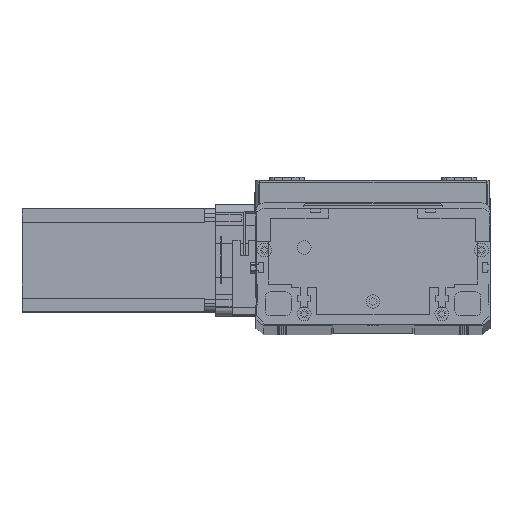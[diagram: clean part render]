
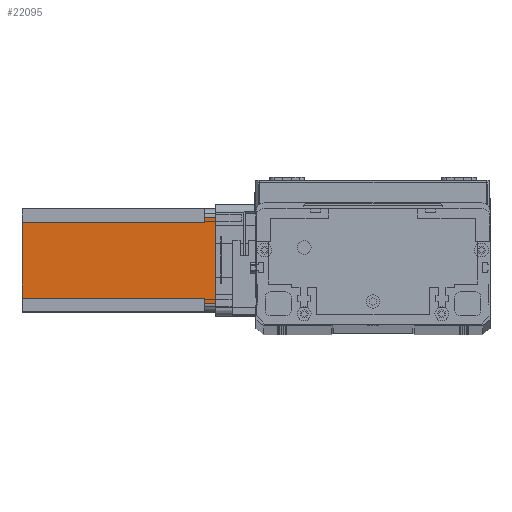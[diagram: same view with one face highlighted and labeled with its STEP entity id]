
A CAD part, top view. The second image highlights one B-rep face of the part: STEP entity #22095.
In plain terms, the highlighted planar face has unit normal (0, 0, 1) as drawn and (0, -1, 0) by its records, which use the part's own axes.
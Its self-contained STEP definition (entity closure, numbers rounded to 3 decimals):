
#575 = CARTESIAN_POINT ( 'NONE',  ( 55., 0., 0. ) ) ;
#847 = VECTOR ( 'NONE', #25071, 1000. ) ;
#1330 = VECTOR ( 'NONE', #6969, 1000. ) ;
#1618 = CARTESIAN_POINT ( 'NONE',  ( 0., 0., -112.5 ) ) ;
#2047 = DIRECTION ( 'NONE',  ( 1., 0., 0. ) ) ;
#2066 = VERTEX_POINT ( 'NONE', #575 ) ;
#2630 = VECTOR ( 'NONE', #13880, 1000. ) ;
#3203 = CARTESIAN_POINT ( 'NONE',  ( 8., 0., -112.5 ) ) ;
#3427 = DIRECTION ( 'NONE',  ( 1., 0., 0. ) ) ;
#3444 = VECTOR ( 'NONE', #20637, 1000. ) ;
#3607 = VECTOR ( 'NONE', #3427, 1000. ) ;
#3659 = CARTESIAN_POINT ( 'NONE',  ( 5., 0., -112.5 ) ) ;
#4548 = VERTEX_POINT ( 'NONE', #11816 ) ;
#4606 = VERTEX_POINT ( 'NONE', #7030 ) ;
#5247 = VERTEX_POINT ( 'NONE', #18920 ) ;
#5456 = LINE ( 'NONE', #6324, #10508 ) ;
#5688 = EDGE_CURVE ( 'NONE', #19277, #4606, #13109, .T. ) ;
#5992 = DIRECTION ( 'NONE',  ( 0., -1., 0. ) ) ;
#6136 = EDGE_CURVE ( 'NONE', #18836, #19277, #24799, .T. ) ;
#6324 = CARTESIAN_POINT ( 'NONE',  ( 0., 0., -112.5 ) ) ;
#6423 = EDGE_LOOP ( 'NONE', ( #13315, #26340, #11170, #22470, #12749, #9012, #23008, #16227 ) ) ;
#6761 = EDGE_CURVE ( 'NONE', #14198, #25589, #9442, .T. ) ;
#6969 = DIRECTION ( 'NONE',  ( 0., 0., 1. ) ) ;
#6997 = EDGE_CURVE ( 'NONE', #25589, #2066, #25386, .T. ) ;
#7030 = CARTESIAN_POINT ( 'NONE',  ( 5., 0., -6.5 ) ) ;
#7485 = DIRECTION ( 'NONE',  ( -1., 0., 0. ) ) ;
#7656 = AXIS2_PLACEMENT_3D ( 'NONE', #1618, #5992, #21005 ) ;
#9012 = ORIENTED_EDGE ( 'NONE', *, *, #6136, .F. ) ;
#9087 = CARTESIAN_POINT ( 'NONE',  ( 8., 0., -112.5 ) ) ;
#9442 = LINE ( 'NONE', #23029, #20149 ) ;
#9982 = CARTESIAN_POINT ( 'NONE',  ( 52., 0., -112.5 ) ) ;
#10508 = VECTOR ( 'NONE', #2047, 1000. ) ;
#10996 = EDGE_CURVE ( 'NONE', #18836, #4548, #5456, .T. ) ;
#11005 = LINE ( 'NONE', #3659, #847 ) ;
#11124 = CARTESIAN_POINT ( 'NONE',  ( 8., 0., -6.5 ) ) ;
#11170 = ORIENTED_EDGE ( 'NONE', *, *, #25524, .F. ) ;
#11425 = CARTESIAN_POINT ( 'NONE',  ( 8., 0., -6.5 ) ) ;
#11816 = CARTESIAN_POINT ( 'NONE',  ( 52., 0., -112.5 ) ) ;
#12190 = CARTESIAN_POINT ( 'NONE',  ( 55., 0., -6.5 ) ) ;
#12375 = PLANE ( 'NONE',  #7656 ) ;
#12749 = ORIENTED_EDGE ( 'NONE', *, *, #5688, .F. ) ;
#13109 = LINE ( 'NONE', #11425, #23510 ) ;
#13315 = ORIENTED_EDGE ( 'NONE', *, *, #6761, .T. ) ;
#13880 = DIRECTION ( 'NONE',  ( 0., 0., 1. ) ) ;
#14159 = CARTESIAN_POINT ( 'NONE',  ( 0., 0., 0. ) ) ;
#14198 = VERTEX_POINT ( 'NONE', #23074 ) ;
#14481 = CARTESIAN_POINT ( 'NONE',  ( 55., 0., -112.5 ) ) ;
#14903 = LINE ( 'NONE', #9982, #3444 ) ;
#15162 = EDGE_CURVE ( 'NONE', #14198, #4548, #14903, .T. ) ;
#16227 = ORIENTED_EDGE ( 'NONE', *, *, #15162, .F. ) ;
#18836 = VERTEX_POINT ( 'NONE', #3203 ) ;
#18920 = CARTESIAN_POINT ( 'NONE',  ( 5., 0., 0. ) ) ;
#19277 = VERTEX_POINT ( 'NONE', #11124 ) ;
#20149 = VECTOR ( 'NONE', #23123, 1000. ) ;
#20637 = DIRECTION ( 'NONE',  ( 0., 0., -1. ) ) ;
#20767 = LINE ( 'NONE', #14159, #3607 ) ;
#21005 = DIRECTION ( 'NONE',  ( 0., 0., -1. ) ) ;
#22095 = ADVANCED_FACE ( 'NONE', ( #25800 ), #12375, .T. ) ;
#22470 = ORIENTED_EDGE ( 'NONE', *, *, #26323, .T. ) ;
#23008 = ORIENTED_EDGE ( 'NONE', *, *, #10996, .T. ) ;
#23029 = CARTESIAN_POINT ( 'NONE',  ( 52., 0., -6.5 ) ) ;
#23074 = CARTESIAN_POINT ( 'NONE',  ( 52., 0., -6.5 ) ) ;
#23123 = DIRECTION ( 'NONE',  ( 1., 0., 0. ) ) ;
#23510 = VECTOR ( 'NONE', #7485, 1000. ) ;
#24799 = LINE ( 'NONE', #9087, #1330 ) ;
#25071 = DIRECTION ( 'NONE',  ( 0., 0., -1. ) ) ;
#25386 = LINE ( 'NONE', #14481, #2630 ) ;
#25524 = EDGE_CURVE ( 'NONE', #5247, #2066, #20767, .T. ) ;
#25589 = VERTEX_POINT ( 'NONE', #12190 ) ;
#25800 = FACE_OUTER_BOUND ( 'NONE', #6423, .T. ) ;
#26323 = EDGE_CURVE ( 'NONE', #5247, #4606, #11005, .T. ) ;
#26340 = ORIENTED_EDGE ( 'NONE', *, *, #6997, .T. ) ;
